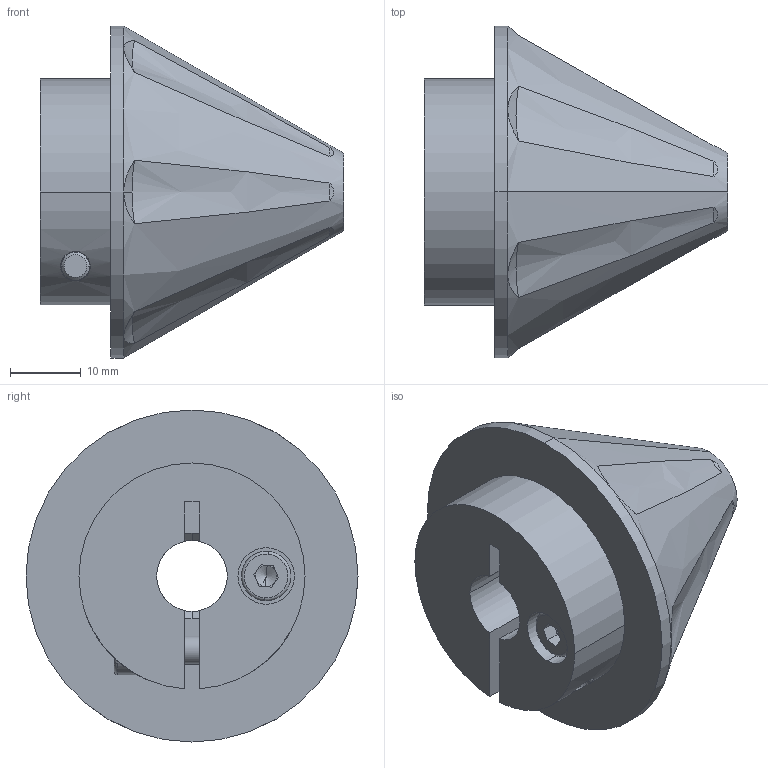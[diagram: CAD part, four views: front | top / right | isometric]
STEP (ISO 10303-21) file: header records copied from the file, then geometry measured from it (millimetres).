
FILE_DESCRIPTION (( 'STEP AP214' ), '1' );
FILE_NAME ('CL-10-F70.STEP', '2023-03-07T08:01:31', ( '' ), ( '' ), 'SwSTEP 2.0', 'SolidWorks 2022', '' );
FILE_SCHEMA (( 'AUTOMOTIVE_DESIGN' ));
Length unit declared in the file: millimetre
Products named in the file (1): CL-10-F70
Bounding box: 43 x 47 x 47 mm (x, y, z)
Volume: 29833.8 mm3; surface area: 10587.2 mm2
Topology: 4 solids, 4 shells, 113 faces, 260 edges, 162 vertices
Faces by surface type: plane 41, cone 35, cylinder 29, bspline 6, torus 2
Entity records: 5362 total; most frequent: CARTESIAN_POINT 1528, DIRECTION 533, ORIENTED_EDGE 508, EDGE_CURVE 254, AXIS2_PLACEMENT_3D 212, VERTEX_POINT 162, EDGE_LOOP 134, UNCERTAINTY_MEASURE_WITH_UNIT 119
